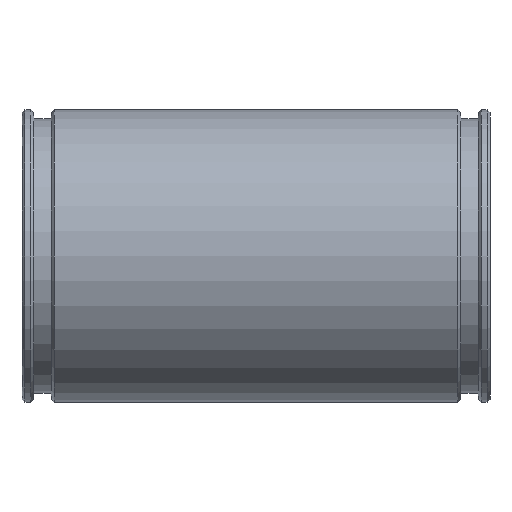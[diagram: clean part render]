
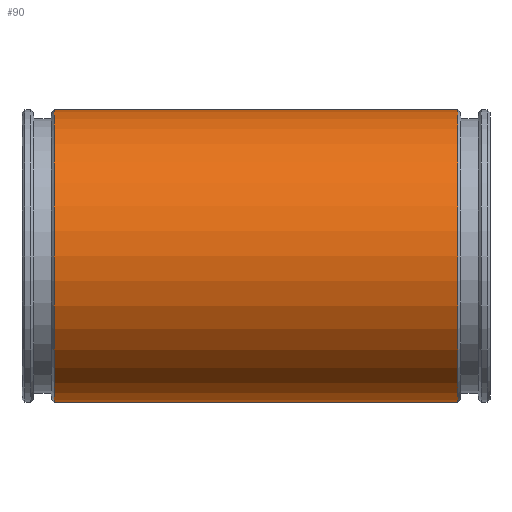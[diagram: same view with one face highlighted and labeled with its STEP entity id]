
A CAD part, front view. The second image highlights one B-rep face of the part: STEP entity #90.
In plain terms, the highlighted cylindrical face has radius 25 mm (diameter 50 mm), a full revolution.
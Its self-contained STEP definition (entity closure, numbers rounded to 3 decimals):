
#90 = ADVANCED_FACE( '', ( #197, #198 ), #199, .T. );
#197 = FACE_OUTER_BOUND( '', #300, .T. );
#198 = FACE_OUTER_BOUND( '', #301, .T. );
#199 = CYLINDRICAL_SURFACE( '', #302, 25. );
#300 = EDGE_LOOP( '', ( #439 ) );
#301 = EDGE_LOOP( '', ( #440 ) );
#302 = AXIS2_PLACEMENT_3D( '', #441, #442, #443 );
#439 = ORIENTED_EDGE( '', *, *, #463, .T. );
#440 = ORIENTED_EDGE( '', *, *, #481, .F. );
#441 = CARTESIAN_POINT( '', ( 40., 0., 0. ) );
#442 = DIRECTION( '', ( -1., 0., 0. ) );
#443 = DIRECTION( '', ( 0., 0., -1. ) );
#463 = EDGE_CURVE( '', #515, #515, #516, .T. );
#481 = EDGE_CURVE( '', #544, #544, #545, .T. );
#515 = VERTEX_POINT( '', #587 );
#516 = CIRCLE( '', #588, 25. );
#544 = VERTEX_POINT( '', #616 );
#545 = CIRCLE( '', #617, 25. );
#587 = CARTESIAN_POINT( '', ( 5.5, 0., -25. ) );
#588 = AXIS2_PLACEMENT_3D( '', #660, #661, #662 );
#616 = CARTESIAN_POINT( '', ( 74.5, 0., -25. ) );
#617 = AXIS2_PLACEMENT_3D( '', #693, #694, #695 );
#660 = CARTESIAN_POINT( '', ( 5.5, 0., 0. ) );
#661 = DIRECTION( '', ( 1., 0., 0. ) );
#662 = DIRECTION( '', ( 0., 0., -1. ) );
#693 = CARTESIAN_POINT( '', ( 74.5, 0., 0. ) );
#694 = DIRECTION( '', ( 1., 0., 0. ) );
#695 = DIRECTION( '', ( 0., 0., -1. ) );
